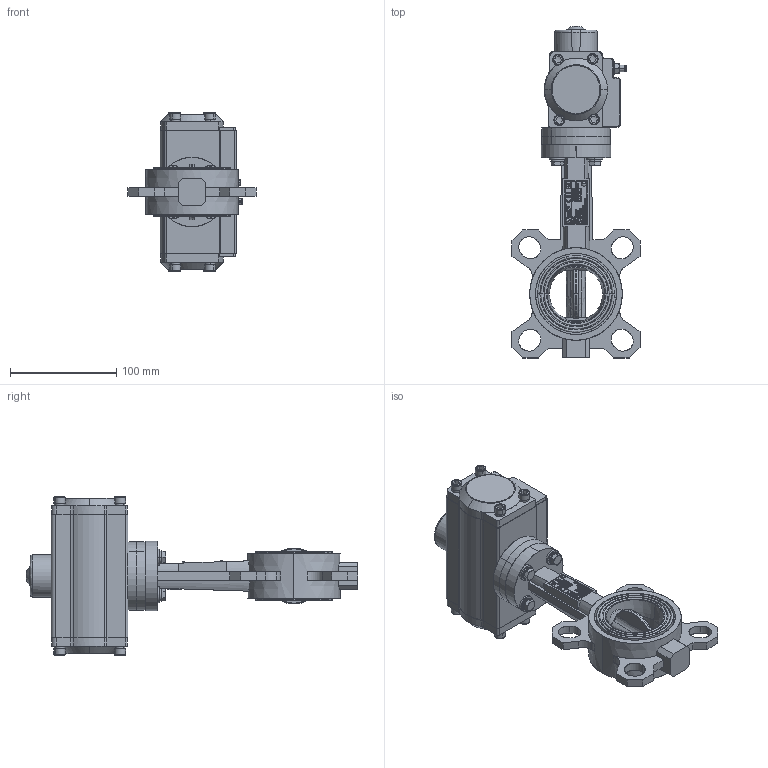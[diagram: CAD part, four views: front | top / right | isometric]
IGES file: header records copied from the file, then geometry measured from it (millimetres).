
Start section: SolidWorks IGES file using analytic representation for surfaces
Global section: file name: H:\BE FABRICATION\BE SERIE\VP\VP SERIE\F072 VPG\plan 3D\VPG-N03\WAFER\DN50\VP444X-N03XX0050.igs; native system: SolidWorks 2020; preprocessor: SolidWorks 2020; author: k.gigout; date: 220627.174424; units: millimetre
Bounding box: 120.28 x 311.96 x 148.56 mm (x, y, z)
Surface area: 141136.8 mm2 (no closed solid volume)
Topology: 0 solids, 0 shells, 812 faces, 18505 edges, 18501 vertices
Faces by surface type: bspline 520, revolution 292
